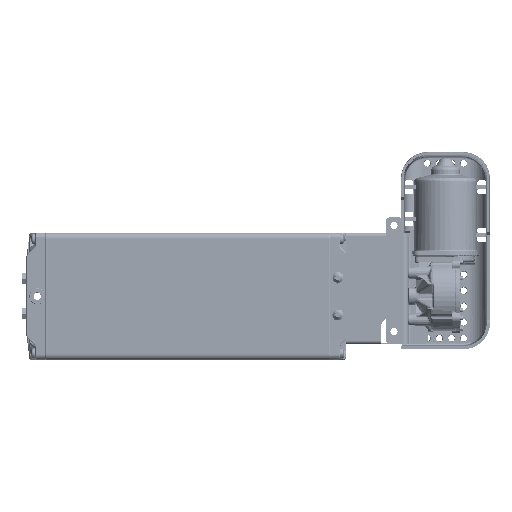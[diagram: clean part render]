
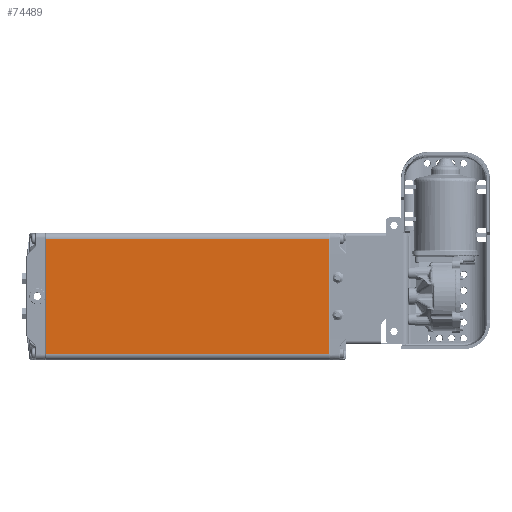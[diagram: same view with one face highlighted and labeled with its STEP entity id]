
A CAD part, top view. The second image highlights one B-rep face of the part: STEP entity #74489.
In plain terms, the highlighted planar face has unit normal (0, 0, 1).
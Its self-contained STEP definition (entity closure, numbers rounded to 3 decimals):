
#7075=LINE('',#125767,#10108);
#7076=LINE('',#125770,#10109);
#7077=LINE('',#125772,#10110);
#7078=LINE('',#125774,#10111);
#10108=VECTOR('',#86925,1000.);
#10109=VECTOR('',#86926,1000.);
#10110=VECTOR('',#86927,1000.);
#10111=VECTOR('',#86928,1000.);
#17824=ORIENTED_EDGE('',*,*,#34885,.T.);
#17825=ORIENTED_EDGE('',*,*,#34886,.T.);
#17826=ORIENTED_EDGE('',*,*,#34887,.T.);
#17827=ORIENTED_EDGE('',*,*,#34888,.T.);
#34885=EDGE_CURVE('',#43642,#43643,#7075,.F.);
#34886=EDGE_CURVE('',#43643,#43644,#7076,.T.);
#34887=EDGE_CURVE('',#43644,#43645,#7077,.T.);
#34888=EDGE_CURVE('',#43645,#43642,#7078,.F.);
#43642=VERTEX_POINT('',#125768);
#43643=VERTEX_POINT('',#125769);
#43644=VERTEX_POINT('',#125771);
#43645=VERTEX_POINT('',#125773);
#52060=EDGE_LOOP('',(#17824,#17825,#17826,#17827));
#56661=FACE_BOUND('',#52060,.T.);
#60416=PLANE('',#78988);
#74489=ADVANCED_FACE('',(#56661),#60416,.T.);
#78988=AXIS2_PLACEMENT_3D('',#125766,#86923,#86924);
#86923=DIRECTION('',(0.,0.,1.));
#86924=DIRECTION('',(1.,0.,0.));
#86925=DIRECTION('',(0.,-1.,0.));
#86926=DIRECTION('',(-1.,0.,0.));
#86927=DIRECTION('',(0.,-1.,0.));
#86928=DIRECTION('',(-1.,0.,0.));
#125766=CARTESIAN_POINT('',(60.,268.5,30.));
#125767=CARTESIAN_POINT('',(54.,268.5,30.));
#125768=CARTESIAN_POINT('',(54.,0.5,30.));
#125769=CARTESIAN_POINT('',(54.,268.,30.));
#125770=CARTESIAN_POINT('',(60.,268.,30.));
#125771=CARTESIAN_POINT('',(-54.,268.,30.));
#125772=CARTESIAN_POINT('',(-54.,268.5,30.));
#125773=CARTESIAN_POINT('',(-54.,0.5,30.));
#125774=CARTESIAN_POINT('',(54.,0.5,30.));
